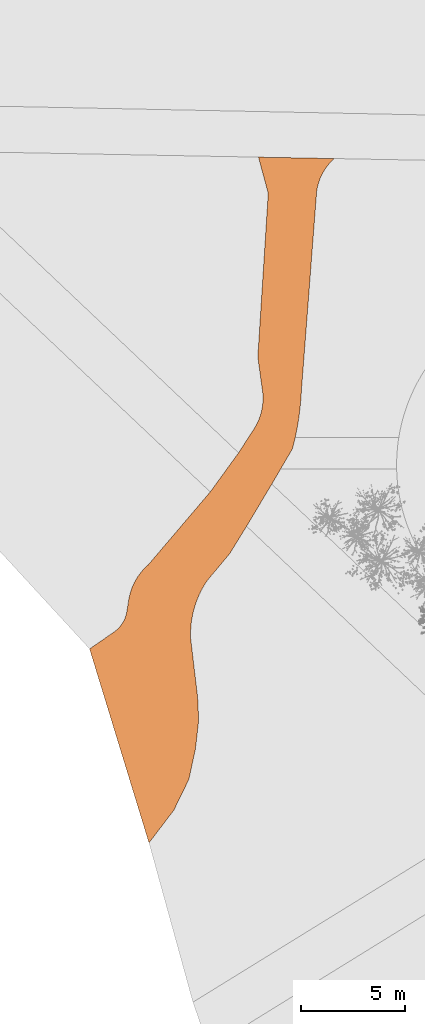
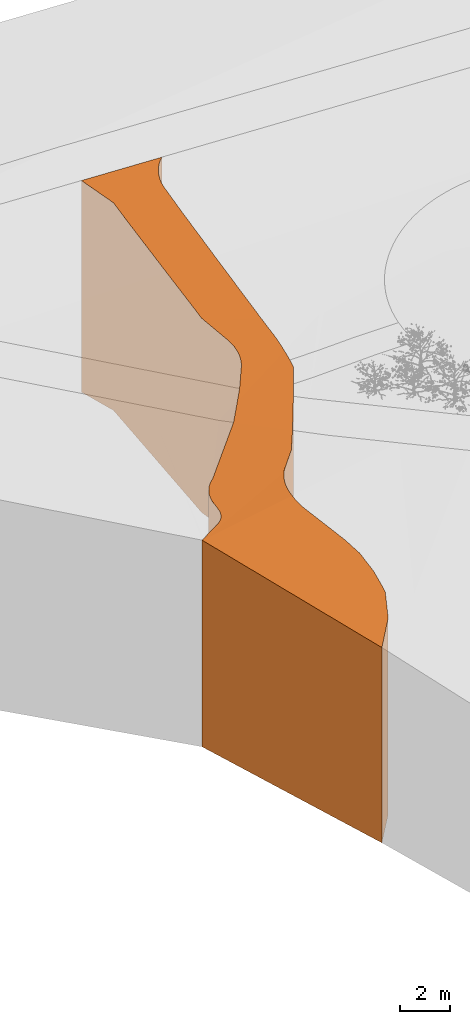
# One storey, part 219 of 246: 1 proxy.
"""IFC2X3 building model written with IfcOpenShell, lengths in millimetres."""

from ifc_helpers import new_model, entity, si_unit, converted_unit, derived_unit, money_unit, direction, frame, origin_with_axes, place, context, subcontext, project, spatial, faceted_brep, material, type_object, element, save


model = new_model("IFC2X3")

# Units and contexts
model_context = context("Model", 3, precision=0.01, world=origin_with_axes(), true_north=direction((0.0, 1.0)))
body_context = subcontext(model_context, "Body", "Model", "MODEL_VIEW")
ifc_project = project(units=[si_unit("LENGTHUNIT", "METRE", prefix="MILLI"), si_unit("AREAUNIT", "SQUARE_METRE"), si_unit("VOLUMEUNIT", "CUBIC_METRE"), converted_unit("PLANEANGLEUNIT", "DEGREE", entity("IfcPlaneAngleMeasure", 0.0174532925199), si_unit("PLANEANGLEUNIT", "RADIAN"), dimensions=[0, 0, 0, 0, 0, 0, 0]), si_unit("SOLIDANGLEUNIT", "STERADIAN"), money_unit("EUR"), converted_unit("TIMEUNIT", "Year", entity("IfcTimeMeasure", 31556926.0), si_unit("TIMEUNIT", "SECOND"), dimensions=[0, 0, 1, 0, 0, 0, 0]), si_unit("MASSUNIT", "GRAM", prefix="KILO"), si_unit("THERMODYNAMICTEMPERATUREUNIT", "DEGREE_CELSIUS"), si_unit("LUMINOUSINTENSITYUNIT", "LUMEN"), si_unit("ENERGYUNIT", "JOULE", prefix="MEGA"), derived_unit("THERMALCONDUCTANCEUNIT", [(si_unit("POWERUNIT", "WATT"), 1), (si_unit("LENGTHUNIT", "METRE"), -1), (si_unit("THERMODYNAMICTEMPERATUREUNIT", "KELVIN"), -1)]), derived_unit("SPECIFICHEATCAPACITYUNIT", [(si_unit("ENERGYUNIT", "JOULE"), 1), (si_unit("MASSUNIT", "GRAM", prefix="KILO"), -1), (si_unit("THERMODYNAMICTEMPERATUREUNIT", "KELVIN"), -1)]), derived_unit("MASSDENSITYUNIT", [(si_unit("MASSUNIT", "GRAM", prefix="KILO"), 1), (si_unit("VOLUMEUNIT", "CUBIC_METRE"), -1)])], contexts=[model_context])

# Site, building, storey
site_placement = place(None, origin_with_axes())
site = spatial("IfcSite", under=ifc_project, at=site_placement, Name="L.Koidula tn 11b", CompositionType="ELEMENT")
building_placement = place(site_placement, origin_with_axes())
building = spatial("IfcBuilding", under=site, at=building_placement, Name="Rakvere Riigigümnaasium", CompositionType="ELEMENT")
storey_placement = place(building_placement, origin_with_axes())
storey = spatial("IfcBuildingStorey", under=building, at=storey_placement, Name="1.korrus 0,00", CompositionType="ELEMENT", Elevation=0.0)

# Proxy
ifc_material = material(Name="Kruus")
building_element_proxy_type = type_object("IfcBuildingElementProxyType", Name="Kruus", PredefinedType="NOTDEFINED")
proxy_placement = place(storey_placement, frame((-18848.4295375, 69728.548182, -10000.0), z_axis=(0.0, 0.0, 1.0), x_axis=(1.0, 0.0, 0.0)))
element("IfcBuildingElementProxy", 1, at=proxy_placement, inside=storey, type_object=building_element_proxy_type, material=ifc_material, Name="Olemasolevad kõnniteed", context=body_context, shape_type="Brep", body=[
    faceted_brep([(4266.21516083, 2386.63788942, 9572.96558806), (4445.33094187, 2386.63399962, 9574.48079995), (4770.81106501, 3054.07701452, 9621.75324117), (4852.4566403, 3433.85006585, 9647.77498232), (100.00000148, 9317.41031026, 10000.0), (4275.80620759, 2038.99956143, 9553.33782692), (4044.54675195, 1564.7693479, 9528.75841779), (4044.54675195, 1564.7693479, 0.0), (4770.81106501, 3054.07701452, 0.0), (5085.91630381, 4519.78385281, 9629.19644511), (5085.91630381, 4519.78385281, 0.0), (5239.27545621, 5876.81232337, 9616.39496611), (5191.61261589, 6976.43387527, 9618.96186783), (4860.0126625, 9784.42687896, 9641.31353116), (4853.68954866, 9917.5349223, 9641.66591581), (4853.68995197, 10130.9849657, 9641.46782309), (4863.6952413, 10344.2003854, 9640.51694974), (4883.68342284, 10556.7124877, 9638.81538599), (4896.59315302, 10647.879366, 9637.75916556), (2122.54801486, 2386.68444279, 9592.23207447), (2853.47467746, 0.0, 9451.50249505), (1612.7010932, 4051.48034968, 9690.39588012), (2853.47467746, 0.0, 0.0), (0.0, 9317.41030813, 0.0), (1135.94310515, 10105.0340196, 0.0), (1187.05752987, 10138.8076907, 0.0), (1283.44048576, 10214.4628749, 0.0), (1373.33613546, 10297.7224284, 0.0), (1456.14623824, 10388.0322727, 0.0), (1531.31970654, 10484.7914105, 0.0), (1598.35627332, 10587.3559258, 0.0), (1656.8098213, 10695.0432686, 0.0), (1706.29135175, 10807.1367976, 0.0), (1746.47157326, 10922.8905487, 0.0), (1777.08309308, 11041.5341997, 0.0), (1795.36067576, 11152.5895658, 0.0), (1854.94888734, 11496.0814501, 0.0), (1879.88659107, 11692.0762918, 0.0), (1913.2424553, 11858.5713001, 0.0), (1956.49570998, 12022.7734848, 0.0), (2009.49151967, 12184.0950446, 0.0), (2072.04017313, 12341.9584901, 0.0), (2143.91776242, 12495.7987113, 0.0), (2224.86698442, 12645.065, 0.0), (2314.59806193, 12789.2230217, 0.0), (2412.78978098, 12927.7567281, 0.0), (2519.09064069, 13060.1702044, 0.0), (2633.12011158, 13185.9894448, 0.0), (2754.46999774, 13304.7640491, 0.0), (2818.58794791, 13360.416442, 0.0), (5795.41344759, 16860.7914739, 0.0), (7156.50626519, 18738.91891, 0.0), (7868.00295103, 19843.8656657, 0.0), (7914.19607906, 19912.3357497, 0.0), (7998.062077, 20054.6534378, 0.0), (8073.09582979, 20201.8192146, 0.0), (8139.01820695, 20353.2856139, 0.0), (8195.5839729, 20508.4891708, 0.0), (8242.58269927, 20666.8525177, 0.0), (8279.83954773, 20827.7865327, 0.0), (8307.21592034, 20990.6925306, 0.0), (8324.60997519, 21154.9644905, 0.0), (8331.95700528, 21319.9913097, 0.0), (8329.22967915, 21485.1590779, 0.0), (8315.99121252, 21642.1916007, 0.0), (8078.72443486, 23362.9226249, 0.0), (8116.22223714, 23887.8323065, 0.0), (8582.76110063, 31209.3398852, 0.0), (8112.96455571, 32945.1883853, 0.0), (11760.9883469, 32876.9795654, 0.0), (11700.9828511, 32824.8573144, 0.0), (11587.7542402, 32713.2829627, 0.0), (11481.7548716, 32594.8190941, 0.0), (11383.4030764, 32469.9332315, 0.0), (11293.0870042, 32339.1182424, 0.0), (11211.1630912, 32202.8903936, 0.0), (11137.9546538, 32061.7873143, 0.0), (11073.7506122, 31916.3658739, 0.0), (11018.8043503, 31767.1999843, 0.0), (10973.3327161, 31614.8783352, 0.0), (10937.5151652, 31460.0020706, 0.0), (10911.4930532, 31303.1824163, 0.0), (10905.6762283, 31245.2500976, 0.0), (10170.7987924, 21657.1544805, 0.0), (10168.6868258, 21591.5912673, 0.0), (10144.2986326, 21232.0398835, 0.0), (10109.9250103, 20873.3053916, 0.0), (10065.5925257, 20515.6650522, 0.0), (10011.3354427, 20159.3952801, 0.0), (9947.19569584, 19804.7714308, 0.0), (9873.22285771, 19452.0675879, 0.0), (9789.47410082, 19101.5563509, 0.0), (9742.74412708, 18927.5324877, 0.0), (8754.21229058, 17238.2501784, 0.0), (7542.70034146, 15210.7776918, 0.0), (6727.06698974, 13888.0190064, 0.0), (5673.4025545, 12629.9554847, 0.0), (5612.30135187, 12542.4519231, 0.0), (5498.43624015, 12361.9092485, 0.0), (5393.15872217, 12176.2278945, 0.0), (5296.70022076, 11985.816029, 0.0), (5209.27277265, 11791.0922186, 0.0), (5131.06856235, 11592.4845085, 0.0), (5062.25949967, 11390.4294816, 0.0), (5002.99684188, 11185.3712986, 0.0), (4953.41086115, 10977.760722, 0.0), (4913.61055824, 10768.0541248, 0.0), (4883.68342284, 10556.7124877, 0.0), (4863.6952413, 10344.2003854, 0.0), (4853.68995197, 10130.9849657, 0.0), (4853.68954866, 9917.5349223, 0.0), (4860.0126625, 9784.42687896, 0.0), (5191.61261589, 6976.43387527, 0.0), (5239.27545621, 5876.81232337, 0.0), (4913.61055824, 10768.0541248, 9624.7768424), (5393.15872217, 12176.2278945, 9459.36978945), (5498.43624015, 12361.9092485, 9435.56559646), (5573.32947841, 12480.6587526, 9419.9833057), (4953.41086115, 10977.760722, 9601.64336473), (5002.99684188, 11185.3712986, 9578.25822445), (5062.25949967, 11390.4294816, 9554.67282716), (5131.06856235, 11592.4845085, 9530.93901869), (5209.27277265, 11791.0922186, 9507.1089711), (5296.70022076, 11985.816029, 9483.23506802), (0.0, 9317.41030813, 10000.0), (184.426630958, 9445.28536359, 9985.54052132), (214.941017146, 9466.44298495, 9982.05987794), (1135.94310515, 10105.0340196, 9877.04746139), (129.036199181, 9406.87955149, 9993.66785217), (1187.05752987, 10138.8076907, 9871.33566305), (1283.44048576, 10214.4628749, 9859.73065989), (1373.33613546, 10297.7224284, 9848.02147964), (1456.14623824, 10388.0322727, 9836.28604495), (1531.31970654, 10484.7914105, 9824.60245321), (1598.35627332, 10587.3559258, 9813.04845679), (1656.8098213, 10695.0432686, 9801.70094563), (1706.29135175, 10807.1367976, 9790.63543555), (1746.47157326, 10922.8905487, 9779.92556569), (1777.08309308, 11041.5341997, 9769.64260847), (1795.36067576, 11152.5895658, 9760.69877245), (1854.94888734, 11496.0814501, 9732.83497586), (1869.69842667, 11612.003656, 9723.78349391), (1879.88659107, 11692.0762918, 9717.536321), (1913.2424553, 11858.5713001, 9703.74601666), (1956.49570998, 12022.7734848, 9689.46443021), (2009.49151967, 12184.0950446, 9674.74268601), (2034.74586522, 12247.8332353, 9668.64226682), (2072.04017313, 12341.9584901, 9661.1303895), (2143.91776242, 12495.7987113, 9647.4764066), (2224.86698442, 12645.065, 9632.81596525), (2314.59806193, 12789.2230217, 9617.20154604), (2412.78978098, 12927.7567281, 9600.68904454), (2519.09064069, 13060.1702044, 9583.3375712), (2633.12011158, 13185.9894448, 9565.20923982), (2692.54143734, 13244.1497338, 9555.98372402), (2754.46999774, 13304.7640491, 9547.68872285), (2818.58794791, 13360.416442, 9539.59531829), (5795.41345004, 16860.7914765, 9100.0), (6666.25879404, 18062.4424683, 9100.0), (7156.50626536, 18738.9189104, 9124.24890299), (7868.00295103, 19843.8656657, 9175.08558041), (7914.19607906, 19912.3357497, 9178.16466388), (7998.062077, 20054.6534378, 9184.97522934), (8073.09582979, 20201.8192146, 9192.41285759), (8139.01820695, 20353.2856139, 9200.44988016), (8195.5839729, 20508.4891708, 9209.05639881), (8242.58269927, 20666.8525177, 9218.20039671), (8279.83954773, 20827.7865327, 9227.84785759), (8307.21592034, 20990.6925306, 9237.96289227), (8324.60997519, 21154.9644905, 9248.50787215), (8331.95700528, 21319.9913097, 9259.44356921), (8329.22967915, 21485.1590779, 9270.72930194), (8315.99121252, 21642.1916007, 9281.8189478), (8110.00021804, 23136.101108, 9390.02432556), (8078.72443486, 23362.9226249, 9408.83048733), (8116.22223714, 23887.8323065, 9449.0593025), (8283.7647962, 26517.1183358, 9651.17428749), (8512.07379439, 30100.0268379, 9940.7596716), (8582.76110063, 31209.3398852, 10052.0983586), (8112.96455571, 32945.1883853, 10241.4900037), (11760.9883469, 32876.9795654, 10139.1870594), (11700.9828511, 32824.8573144, 10135.43717), (11587.7542402, 32713.2829627, 10127.0122454), (11481.7548716, 32594.8190941, 10117.6954244), (11383.4030764, 32469.9332315, 10107.5234761), (11293.0870042, 32339.1182424, 10096.5365446), (11211.1630912, 32202.8903936, 10084.7779903), (11137.9546538, 32061.7873143, 10072.2942188), (11073.7506122, 31916.3658739, 10059.134498), (11018.8043503, 31767.1999843, 10045.3507631), (10973.3327161, 31614.8783352, 10030.9974124), (10937.5151652, 31460.0020706, 10016.1310919), (10911.4930532, 31303.1824163, 10000.8104721), (10905.6762283, 31245.2500976, 9995.05151082), (10548.7965369, 26588.9680597, 9588.96478077), (10227.6453111, 22398.8425903, 9268.4895592), (10170.7987924, 21657.1544805, 9220.14598268), (10782.2359435, 29634.6995543, 9833.94896883), (10168.6868258, 21591.5912673, 9215.77408736), (10144.2986326, 21232.0398835, 9192.2312395), (10109.9250103, 20873.3053916, 9169.08123108), (10065.5925257, 20515.6650522, 9146.34195438), (10011.3354427, 20159.3952801, 9124.03098425), (10001.0307386, 20102.4213439, 9120.51808169), (9947.19569584, 19804.7714308, 9118.78448554), (9873.22285771, 19452.0675879, 9116.68077252), (9789.47410082, 19101.5563509, 9114.54040067), (9742.74412708, 18927.5324877, 9113.45271245), (8754.21229058, 17238.2501784, 9100.29510989), (8731.74537006, 17200.6516527, 9100.0), (7544.26838901, 15213.4018287, 9100.0), (7542.70034146, 15210.7776918, 9100.28595113), (6727.06698974, 13888.0190064, 9246.08283345), (5673.4025545, 12629.9554847, 9403.00120839), (5612.30135187, 12542.4519231, 9413.11526204), (5866.2324588, 16793.9150289, 9100.0), (7404.46271105, 18504.7664343, 9100.0)], [[[0, 1, 2, 3, 4]], [[5, 1, 0]], [[5, 6, 7, 8, 2, 1]], [[9, 3, 2, 8, 10]], [[3, 9, 11, 12, 13, 14, 15, 16, 17, 18, 4]], [[19, 20, 6, 5, 0, 4, 21]], [[6, 20, 22, 7]], [[8, 7, 22, 23, 24, 25, 26, 27, 28, 29, 30, 31, 32, 33, 34, 35, 36, 37, 38, 39, 40, 41, 42, 43, 44, 45, 46, 47, 48, 49, 50, 51, 52, 53, 54, 55, 56, 57, 58, 59, 60, 61, 62, 63, 64, 65, 66, 67, 68, 69, 70, 71, 72, 73, 74, 75, 76, 77, 78, 79, 80, 81, 82, 83, 84, 85, 86, 87, 88, 89, 90, 91, 92, 93, 94, 95, 96, 97, 98, 99, 100, 101, 102, 103, 104, 105, 106, 107, 108, 109, 110, 111, 112, 113, 10]], [[113, 11, 9, 10]], [[112, 12, 11, 113]], [[111, 13, 12, 112]], [[110, 14, 13, 111]], [[109, 15, 14, 110]], [[108, 16, 15, 109]], [[107, 17, 16, 108]], [[114, 18, 17, 107, 106]], [[115, 116, 117, 4, 18, 114, 118, 119, 120, 121, 122, 123]], [[20, 19, 21, 124, 23, 22]], [[4, 124, 21]], [[125, 126, 127, 24, 23, 124, 128]], [[24, 127, 129, 25]], [[25, 129, 130, 26]], [[26, 130, 131, 27]], [[27, 131, 132, 28]], [[28, 132, 133, 29]], [[29, 133, 134, 30]], [[30, 134, 135, 31]], [[31, 135, 136, 32]], [[32, 136, 137, 33]], [[33, 137, 138, 34]], [[34, 138, 139, 35]], [[35, 139, 140, 36]], [[140, 141, 142, 37, 36]], [[37, 142, 143, 38]], [[38, 143, 144, 39]], [[39, 144, 145, 40]], [[145, 146, 147, 41, 40]], [[41, 147, 148, 42]], [[42, 148, 149, 43]], [[43, 149, 150, 44]], [[44, 150, 151, 45]], [[45, 151, 152, 46]], [[46, 152, 153, 47]], [[153, 154, 155, 48, 47]], [[48, 155, 156, 49]], [[49, 156, 157, 50]], [[157, 158, 159, 51, 50]], [[51, 159, 160, 52]], [[52, 160, 161, 53]], [[53, 161, 162, 54]], [[54, 162, 163, 55]], [[55, 163, 164, 56]], [[56, 164, 165, 57]], [[57, 165, 166, 58]], [[58, 166, 167, 59]], [[59, 167, 168, 60]], [[60, 168, 169, 61]], [[61, 169, 170, 62]], [[62, 170, 171, 63]], [[63, 171, 172, 64]], [[172, 173, 174, 65, 64]], [[65, 174, 175, 66]], [[176, 177, 178, 67, 66, 175]], [[67, 178, 179, 68]], [[68, 179, 180, 69]], [[69, 180, 181, 70]], [[70, 181, 182, 71]], [[71, 182, 183, 72]], [[72, 183, 184, 73]], [[73, 184, 185, 74]], [[74, 185, 186, 75]], [[75, 186, 187, 76]], [[76, 187, 188, 77]], [[77, 188, 189, 78]], [[78, 189, 190, 79]], [[79, 190, 191, 80]], [[80, 191, 192, 81]], [[81, 192, 193, 82]], [[194, 195, 196, 83, 82, 193, 197]], [[83, 196, 198, 84]], [[84, 198, 199, 85]], [[85, 199, 200, 86]], [[86, 200, 201, 87]], [[87, 201, 202, 88]], [[202, 203, 204, 89, 88]], [[89, 204, 205, 90]], [[90, 205, 206, 91]], [[91, 206, 207, 92]], [[92, 207, 208, 93]], [[209, 210, 211, 94, 93, 208]], [[94, 211, 212, 95]], [[95, 212, 213, 96]], [[96, 213, 214, 97]], [[214, 117, 116, 98, 97]], [[98, 116, 115, 99]], [[99, 115, 123, 100]], [[100, 123, 122, 101]], [[101, 122, 121, 102]], [[102, 121, 120, 103]], [[103, 120, 119, 104]], [[104, 119, 118, 105]], [[105, 118, 114, 106]], [[212, 211, 210, 215, 141, 140, 139, 138, 137, 136, 135, 134, 133, 132, 131, 130, 129, 127, 126, 4, 117, 214, 213]], [[4, 128, 124]], [[4, 126, 125]], [[4, 125, 128]], [[215, 157, 156, 155, 154, 146, 145, 144, 143, 142, 141]], [[146, 154, 153, 152, 151, 150, 149, 148, 147]], [[215, 210, 209, 216, 158, 157]], [[216, 159, 158]], [[198, 196, 195, 173, 172, 171, 170, 169, 168, 167, 166, 165, 164, 163, 162, 161, 160, 159, 216, 203, 202, 201, 200, 199]], [[173, 195, 194, 176, 175, 174]], [[176, 194, 197, 177]], [[182, 181, 180, 179, 178, 177, 197, 193, 192, 191, 190, 189, 188, 187, 186, 185, 184, 183]], [[205, 204, 203, 216, 209, 208, 207, 206]]]),
])

save(model, "model.ifc")
